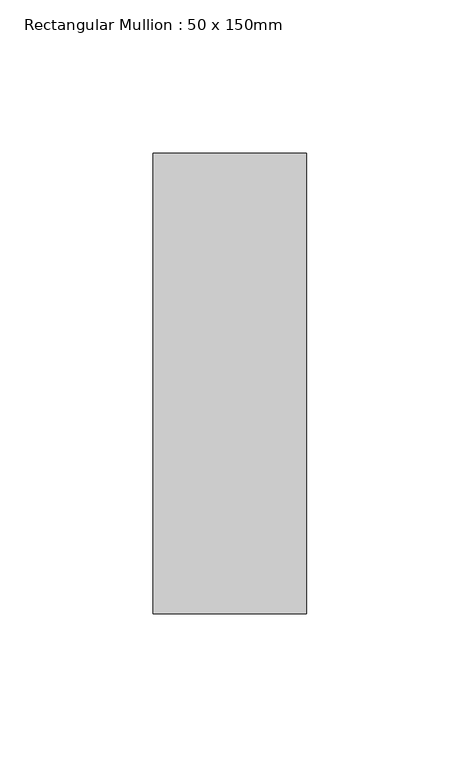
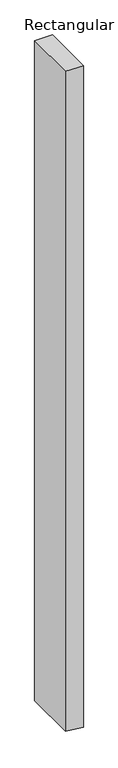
"""IFC4 building model written with IfcOpenShell, lengths in millimetres: member geometry, Rectangular Mullion : 50 x 150mm."""

from ifc_helpers import new_model, si_unit, frame, origin, place, context, project, spatial, polyline, outline, extrude, source, transform, mapped, element, save


def rectangular_mullion_50_x_150mm_57336e3b(model_context):
    return source(origin(), model_context, "Body", "SweptSolid", [
        extrude(outline(polyline([(0.0, 25.0), (0.0, -25.0), (-1957.7322429, -25.0), (-1961.2124021, 5.6423937), (-1963.4109103, 25.0), (0.0, 25.0)])), frame((0.0, -75.0, 0.0), z_axis=(0.0, 1.0, 0.0), x_axis=(0.0, 0.0, 1.0)), (0.0, 0.0, 1.0), 150.0),
    ])


if __name__ == "__main__":
    model = new_model("IFC4")
    model_context = context("Model", 3, world=origin())
    ifc_project = project(units=[si_unit("LENGTHUNIT", "METRE", prefix="MILLI")], contexts=[model_context])
    site = spatial("IfcSite", under=ifc_project)
    building = spatial("IfcBuilding", under=site)
    placement = place(None, origin())
    rectangular_mullion_50_x_150mm_shape = rectangular_mullion_50_x_150mm_57336e3b(model_context)
    element("IfcMember", 1, ObjectType="Rectangular Mullion : 50 x 150mm", at=placement, inside=building, context=model_context, shape_type="MappedRepresentation", body=[
        mapped(rectangular_mullion_50_x_150mm_shape, transform((0.0, 0.0, 0.0), x_axis=(1.0, 0.0, 0.0), y_axis=(0.0, 1.0, 0.0), z_axis=(0.0, 0.0, 1.0))),
    ])
    save(model, "model.ifc")
